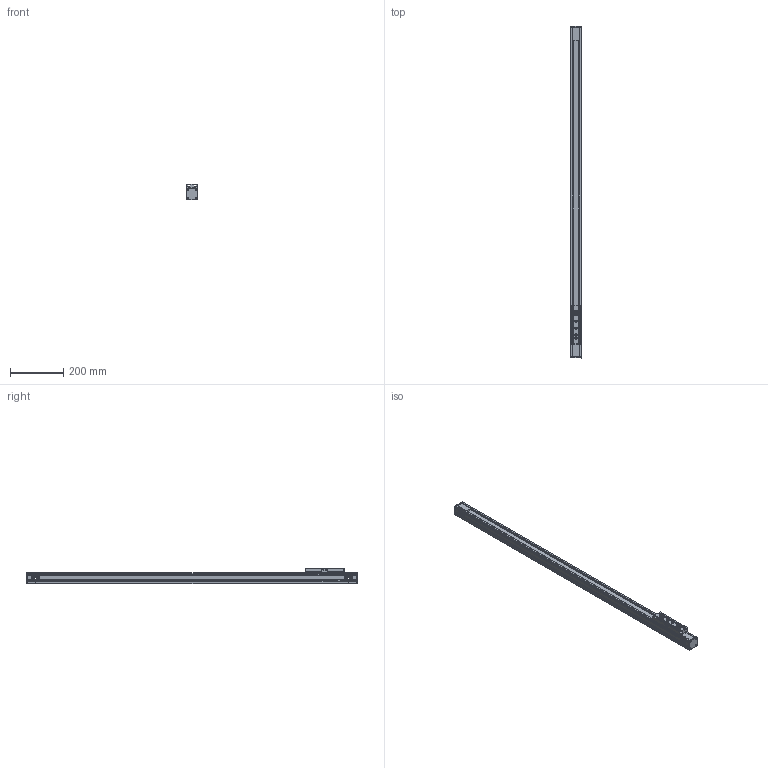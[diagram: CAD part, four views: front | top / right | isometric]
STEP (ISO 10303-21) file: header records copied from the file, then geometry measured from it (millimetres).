
FILE_DESCRIPTION (( 'STEP AP214' ), '1' );
FILE_NAME ('TKR40-1000A1-F0-R3-高速内滚轮直线模组.step', '2025-10-10T03:22:43', ( '' ), ( '' ), 'SwSTEP 2.0', 'SolidWorks 2024', '' );
FILE_SCHEMA (( 'AUTOMOTIVE_DESIGN' ));
Length unit declared in the file: millimetre
Products named in the file (3): TKR40-R3-02; TKR40-1000A1-F0-R3-高速内滚轮直线模组; TKR40-1000-R3-01
Assembly tree (2 placements, depth 2):
  TKR40-1000A1-F0-R3-高速内滚轮直线模组
    TKR40-1000-R3-01
    TKR40-R3-02
Bounding box: 45 x 1252 x 60 mm (x, y, z)
Volume: 973380.4 mm3; surface area: 638534.2 mm2
Topology: 16 solids, 56 shells, 2702 faces, 7175 edges, 4621 vertices
Faces by surface type: cylinder 1388, plane 792, torus 216, cone 186, bspline 96, sphere 24
Entity records: 146594 total; most frequent: CARTESIAN_POINT 52029, ORIENTED_EDGE 14178, DIRECTION 13212, EDGE_CURVE 7139, AXIS2_PLACEMENT_3D 5104, VERTEX_POINT 4625, VECTOR 3004, LINE 3004
